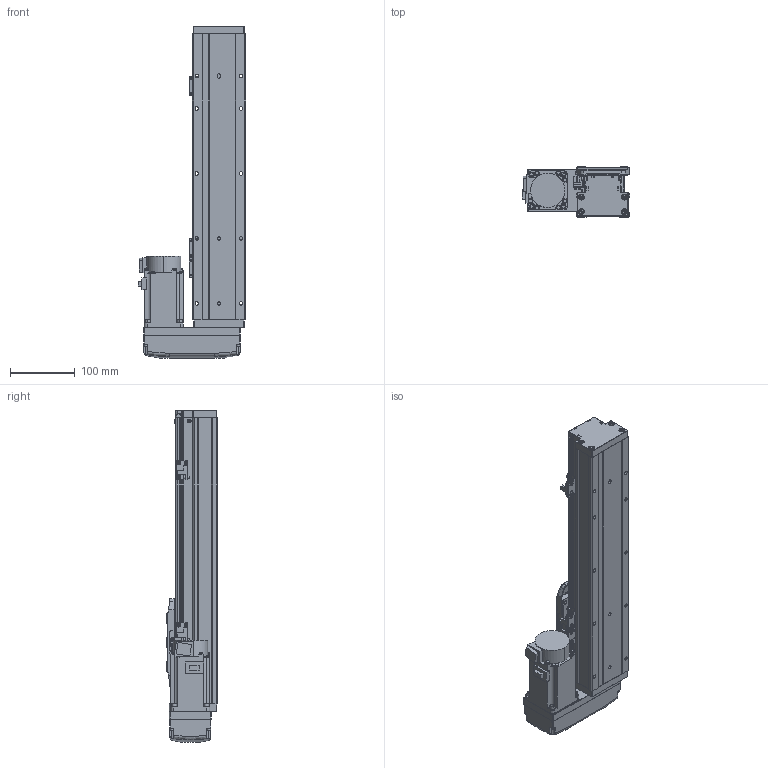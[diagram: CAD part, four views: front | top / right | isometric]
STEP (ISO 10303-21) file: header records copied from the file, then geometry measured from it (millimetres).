
FILE_DESCRIPTION (( 'STEP AP203' ), '1' );
FILE_NAME ('GTH8-250-BL-M20-C4.step', '2022-09-23T00:59:36', ( '微软用户' ), ( '微软中国' ), 'SwSTEP 2.0', 'SolidWorks 2020', '' );
FILE_SCHEMA (( 'CONFIG_CONTROL_DESIGN' ));
Length unit declared in the file: millimetre
Products named in the file (18): GTH80-006; GBT96.1-2002 3×0.8; GTH80-013; BTH-M3X5X6; GBT 70.3-M3℅6; hg-kn43j_-s100_; GTH80-022; CTHA86-015-1_CTHA86-015-2; GTH80-001_250; GBT 70.1-M3℅6; GTH80-028; CTHA86-033_M40B; GTH80-003; GBT 70.1-M4×16; GTH50-024; GTH8-250-BL-M20-C4; GTH80-004; GTH50-023
Assembly tree (57 placements, depth 2):
  GTH8-250-BL-M20-C4
    GTH80-001_250
    GTH80-003
    GTH80-004
    GTH80-006
    GTH80-013
    GBT 70.3-M3℅6  x4
    GTH80-022
    GBT 70.1-M3℅6  x14
    GBT 70.1-M4×16  x8
    GTH80-028  x2
    GTH50-024  x3
    GTH50-023  x3
    GBT96.1-2002 3×0.8  x6
    BTH-M3X5X6  x8
    hg-kn43j_-s100_
    CTHA86-015-1_CTHA86-015-2
    CTHA86-033_M40B
Bounding box: 164.8 x 78 x 511 mm (x, y, z)
Volume: 2896368.5 mm3; surface area: 346372.9 mm2
Topology: 59 solids, 59 shells, 2228 faces, 5139 edges, 3147 vertices
Faces by surface type: plane 1187, cylinder 599, cone 260, torus 166, bspline 8, sphere 8
Entity records: 40478 total; most frequent: CARTESIAN_POINT 7121, DIRECTION 6565, ORIENTED_EDGE 6096, EDGE_CURVE 3048, AXIS2_PLACEMENT_3D 2289, LINE 1987, VECTOR 1987, VERTEX_POINT 1922
